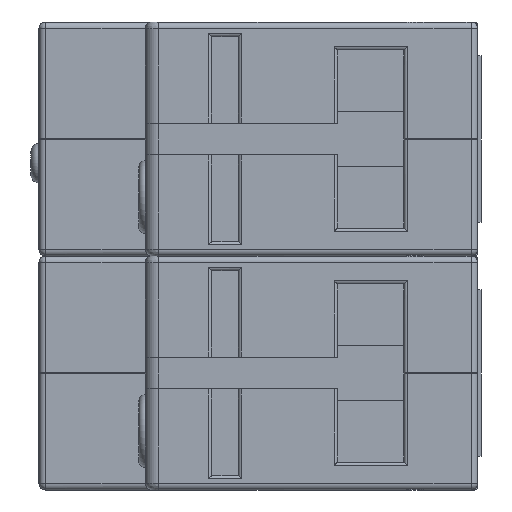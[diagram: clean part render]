
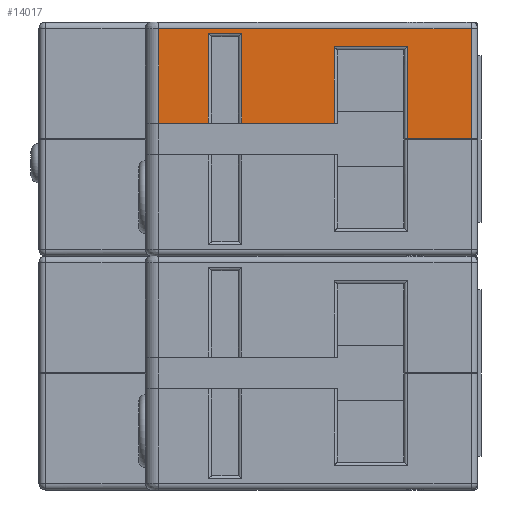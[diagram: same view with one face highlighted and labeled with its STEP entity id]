
A CAD part, left-side view. The second image highlights one B-rep face of the part: STEP entity #14017.
In plain terms, the highlighted planar face has unit normal (-1, 0, 0).
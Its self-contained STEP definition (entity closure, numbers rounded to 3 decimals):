
#113=FACE_BOUND('',#5021,.T.);
#553=LINE('',#20615,#2170);
#555=LINE('',#20621,#2172);
#558=LINE('',#20629,#2175);
#559=LINE('',#20631,#2176);
#560=LINE('',#20633,#2177);
#561=LINE('',#20635,#2178);
#562=LINE('',#20637,#2179);
#563=LINE('',#20638,#2180);
#564=LINE('',#20641,#2181);
#565=LINE('',#20643,#2182);
#566=LINE('',#20645,#2183);
#567=LINE('',#20646,#2184);
#2170=VECTOR('',#16435,10.);
#2172=VECTOR('',#16441,10.);
#2175=VECTOR('',#16450,10.);
#2176=VECTOR('',#16451,10.);
#2177=VECTOR('',#16452,10.);
#2178=VECTOR('',#16453,10.);
#2179=VECTOR('',#16454,10.);
#2180=VECTOR('',#16455,10.);
#2181=VECTOR('',#16456,10.);
#2182=VECTOR('',#16457,10.);
#2183=VECTOR('',#16458,10.);
#2184=VECTOR('',#16459,10.);
#3685=PLANE('',#14967);
#4234=FACE_OUTER_BOUND('',#5020,.T.);
#5020=EDGE_LOOP('',(#9906,#9907,#9908,#9909,#9910,#9911,#9912,#9913));
#5021=EDGE_LOOP('',(#9914,#9915,#9916,#9917));
#6326=VERTEX_POINT('',#20612);
#6327=VERTEX_POINT('',#20614);
#6329=VERTEX_POINT('',#20620);
#6331=VERTEX_POINT('',#20628);
#6332=VERTEX_POINT('',#20630);
#6333=VERTEX_POINT('',#20632);
#6334=VERTEX_POINT('',#20634);
#6335=VERTEX_POINT('',#20636);
#6336=VERTEX_POINT('',#20639);
#6337=VERTEX_POINT('',#20640);
#6338=VERTEX_POINT('',#20642);
#6339=VERTEX_POINT('',#20644);
#7701=EDGE_CURVE('',#6326,#6327,#553,.T.);
#7704=EDGE_CURVE('',#6329,#6327,#555,.T.);
#7709=EDGE_CURVE('',#6326,#6331,#558,.T.);
#7710=EDGE_CURVE('',#6331,#6332,#559,.T.);
#7711=EDGE_CURVE('',#6332,#6333,#560,.T.);
#7712=EDGE_CURVE('',#6334,#6333,#561,.T.);
#7713=EDGE_CURVE('',#6335,#6334,#562,.T.);
#7714=EDGE_CURVE('',#6329,#6335,#563,.T.);
#7715=EDGE_CURVE('',#6336,#6337,#564,.T.);
#7716=EDGE_CURVE('',#6338,#6336,#565,.T.);
#7717=EDGE_CURVE('',#6339,#6338,#566,.T.);
#7718=EDGE_CURVE('',#6337,#6339,#567,.T.);
#9906=ORIENTED_EDGE('',*,*,#7701,.F.);
#9907=ORIENTED_EDGE('',*,*,#7709,.T.);
#9908=ORIENTED_EDGE('',*,*,#7710,.T.);
#9909=ORIENTED_EDGE('',*,*,#7711,.T.);
#9910=ORIENTED_EDGE('',*,*,#7712,.F.);
#9911=ORIENTED_EDGE('',*,*,#7713,.F.);
#9912=ORIENTED_EDGE('',*,*,#7714,.F.);
#9913=ORIENTED_EDGE('',*,*,#7704,.T.);
#9914=ORIENTED_EDGE('',*,*,#7715,.F.);
#9915=ORIENTED_EDGE('',*,*,#7716,.F.);
#9916=ORIENTED_EDGE('',*,*,#7717,.F.);
#9917=ORIENTED_EDGE('',*,*,#7718,.F.);
#14017=ADVANCED_FACE('',(#4234,#113),#3685,.T.);
#14967=AXIS2_PLACEMENT_3D('',#20627,#16448,#16449);
#16435=DIRECTION('',(0.,0.,-1.));
#16441=DIRECTION('',(0.,-1.,0.));
#16448=DIRECTION('center_axis',(-1.,0.,0.));
#16449=DIRECTION('ref_axis',(0.,-1.,0.));
#16450=DIRECTION('',(0.,-1.,0.));
#16451=DIRECTION('',(0.,0.,-1.));
#16452=DIRECTION('',(0.,-1.,0.));
#16453=DIRECTION('',(0.,0.,-1.));
#16454=DIRECTION('',(0.,-1.,0.));
#16455=DIRECTION('',(0.,0.,1.));
#16456=DIRECTION('',(0.,-1.,0.));
#16457=DIRECTION('',(0.,0.,-1.));
#16458=DIRECTION('',(0.,1.,0.));
#16459=DIRECTION('',(0.,0.,1.));
#20612=CARTESIAN_POINT('',(0.,21.6,31.5));
#20614=CARTESIAN_POINT('',(0.,21.6,19.925));
#20615=CARTESIAN_POINT('',(0.,21.6,15.5));
#20620=CARTESIAN_POINT('',(0.,48.,19.925));
#20621=CARTESIAN_POINT('',(0.,35.8,19.925));
#20627=CARTESIAN_POINT('Origin',(0.,50.,0.));
#20628=CARTESIAN_POINT('',(0.,10.6,31.5));
#20629=CARTESIAN_POINT('',(0.,30.55,31.5));
#20630=CARTESIAN_POINT('',(0.,10.6,17.625));
#20631=CARTESIAN_POINT('',(0.,10.6,10.85));
#20632=CARTESIAN_POINT('',(0.,1.,17.625));
#20633=CARTESIAN_POINT('',(0.,41.725,17.625));
#20634=CARTESIAN_POINT('',(0.,1.,34.2));
#20635=CARTESIAN_POINT('',(0.,1.,0.));
#20636=CARTESIAN_POINT('',(0.,48.,34.2));
#20637=CARTESIAN_POINT('',(0.,40.001,34.2));
#20638=CARTESIAN_POINT('',(0.,48.,0.));
#20639=CARTESIAN_POINT('',(0.,40.5,20.));
#20640=CARTESIAN_POINT('',(0.,35.5,20.));
#20641=CARTESIAN_POINT('',(0.,45.,20.));
#20642=CARTESIAN_POINT('',(0.,40.5,33.5));
#20643=CARTESIAN_POINT('',(0.,40.5,16.5));
#20644=CARTESIAN_POINT('',(0.,35.5,33.5));
#20645=CARTESIAN_POINT('',(0.,43.,33.5));
#20646=CARTESIAN_POINT('',(0.,35.5,10.));
